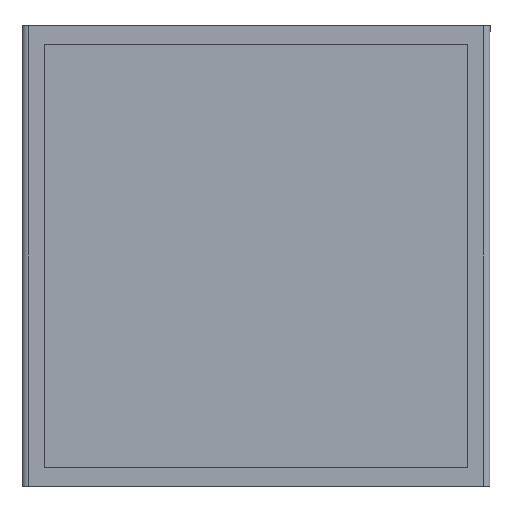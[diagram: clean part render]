
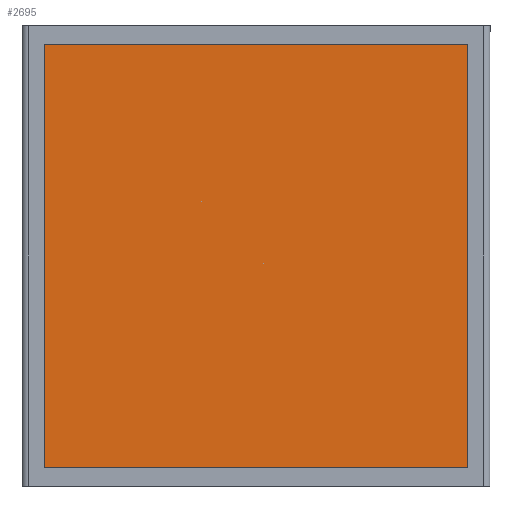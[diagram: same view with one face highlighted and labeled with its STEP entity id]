
A CAD part, front view. The second image highlights one B-rep face of the part: STEP entity #2695.
In plain terms, the highlighted planar face has unit normal (0, -1, 0).
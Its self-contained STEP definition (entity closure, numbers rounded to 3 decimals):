
#84 = DIRECTION ( 'NONE',  ( -1., 0., 0. ) ) ;
#97 = EDGE_CURVE ( 'NONE', #3273, #1908, #3043, .T. ) ;
#221 = VERTEX_POINT ( 'NONE', #4153 ) ;
#288 = LINE ( 'NONE', #1259, #3785 ) ;
#291 = DIRECTION ( 'NONE',  ( 0., 1., 0. ) ) ;
#346 = EDGE_CURVE ( 'NONE', #1908, #221, #613, .T. ) ;
#435 = DIRECTION ( 'NONE',  ( 1., 0., 0. ) ) ;
#613 = LINE ( 'NONE', #2232, #2206 ) ;
#732 = CARTESIAN_POINT ( 'NONE',  ( -9.011, -2.481, 10.369 ) ) ;
#734 = EDGE_LOOP ( 'NONE', ( #3431, #3520, #2771, #1369 ) ) ;
#933 = DIRECTION ( 'NONE',  ( 0., 0., 1. ) ) ;
#1259 = CARTESIAN_POINT ( 'NONE',  ( -9.011, -2.481, -6.631 ) ) ;
#1262 = DIRECTION ( 'NONE',  ( 0., 0., -1. ) ) ;
#1369 = ORIENTED_EDGE ( 'NONE', *, *, #97, .F. ) ;
#1598 = VERTEX_POINT ( 'NONE', #3482 ) ;
#1908 = VERTEX_POINT ( 'NONE', #3372 ) ;
#1939 = AXIS2_PLACEMENT_3D ( 'NONE', #3901, #291, #933 ) ;
#2206 = VECTOR ( 'NONE', #1262, 1000. ) ;
#2232 = CARTESIAN_POINT ( 'NONE',  ( 7.989, -2.481, -6.631 ) ) ;
#2292 = VECTOR ( 'NONE', #84, 1000. ) ;
#2498 = EDGE_CURVE ( 'NONE', #1598, #3273, #288, .T. ) ;
#2561 = DIRECTION ( 'NONE',  ( 0., 0., 1. ) ) ;
#2569 = PLANE ( 'NONE',  #1939 ) ;
#2695 = ADVANCED_FACE ( 'NONE', ( #3852 ), #2569, .F. ) ;
#2771 = ORIENTED_EDGE ( 'NONE', *, *, #346, .F. ) ;
#3011 = CARTESIAN_POINT ( 'NONE',  ( -9.011, -2.481, -6.631 ) ) ;
#3043 = LINE ( 'NONE', #732, #4064 ) ;
#3273 = VERTEX_POINT ( 'NONE', #3447 ) ;
#3372 = CARTESIAN_POINT ( 'NONE',  ( 7.989, -2.481, 10.369 ) ) ;
#3431 = ORIENTED_EDGE ( 'NONE', *, *, #2498, .F. ) ;
#3447 = CARTESIAN_POINT ( 'NONE',  ( -9.011, -2.481, 10.369 ) ) ;
#3482 = CARTESIAN_POINT ( 'NONE',  ( -9.011, -2.481, -6.631 ) ) ;
#3520 = ORIENTED_EDGE ( 'NONE', *, *, #3757, .F. ) ;
#3681 = LINE ( 'NONE', #3011, #2292 ) ;
#3757 = EDGE_CURVE ( 'NONE', #221, #1598, #3681, .T. ) ;
#3785 = VECTOR ( 'NONE', #2561, 1000. ) ;
#3852 = FACE_OUTER_BOUND ( 'NONE', #734, .T. ) ;
#3901 = CARTESIAN_POINT ( 'NONE',  ( -9.011, -2.481, 10.369 ) ) ;
#4064 = VECTOR ( 'NONE', #435, 1000. ) ;
#4153 = CARTESIAN_POINT ( 'NONE',  ( 7.989, -2.481, -6.631 ) ) ;
